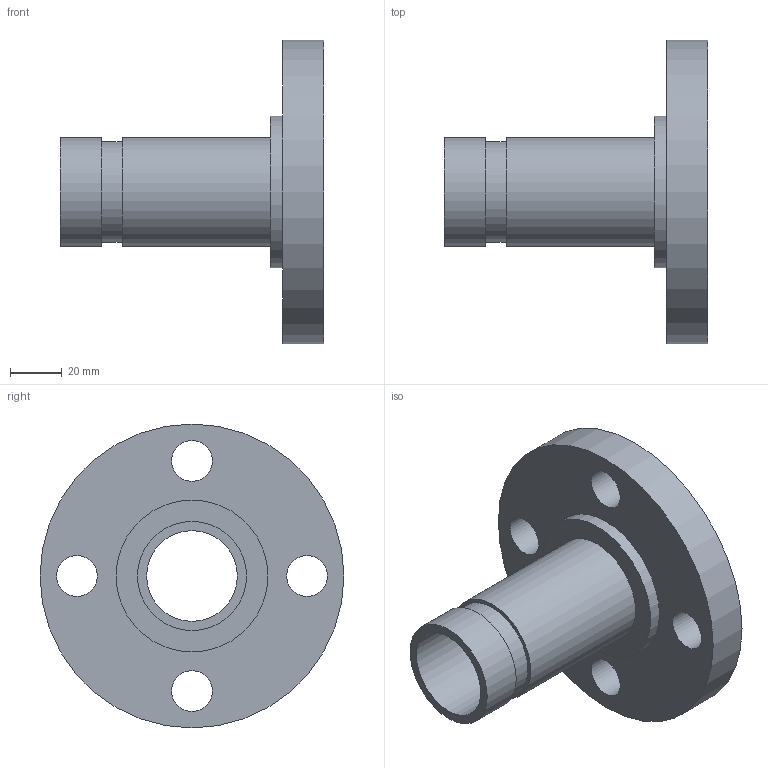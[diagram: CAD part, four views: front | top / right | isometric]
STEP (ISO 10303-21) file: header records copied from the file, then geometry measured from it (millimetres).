
FILE_DESCRIPTION(/* description */ ('VIC FLANGE ADAPTER No 45F','CAx-IF Rec.Pracs.---Representation and Presentation of Product Manufacturing Information (PMI)---4.0---2014-10-13'),/* implementation_level */ '2;1');
FILE_NAME(/* name */ 'C:\Users\kkamble\AppData\Roaming\Autodesk\ApplicationPlugins\Back Up\Victaulic_IPS_Flanged Adapter Nipple_CL 150 FF_No 45F (OGSxFLG)\Victaulic_IPS_Flanged Adapter Nipple_CL 150 FF_No 45F (OGSxFLG)_1.25 (32).stp',/* time_stamp */ '2020-07-26T22:22:43+06:00',/* author */ ('CONSTRUCTION PIPING SERVICES'),/* organization */ ('Victaulic'),/* preprocessor_version */ 'ST-DEVELOPER v17.2',/* originating_system */ 'Autodesk Inventor 2019',/* authorisation */ '');
FILE_SCHEMA (('AP242_MANAGED_MODEL_BASED_3D_ENGINEERING_MIM_LF { 1 0 10303 442 1 1 4 }'));
Length unit declared in the file: inch
Products named in the file (1): 045F-01.25
Bounding box: 101.6 x 117.35 x 117.35 mm (x, y, z)
Volume: 184584.7 mm3; surface area: 50200.7 mm2
Topology: 1 solids, 1 shells, 16 faces, 42 edges, 32 vertices
Faces by surface type: cylinder 10, plane 6
Full cylindrical faces by diameter (mm): 15.748 x4, 35.052 x1, 38.989 x1, 42.164 x2, 58.674 x1, 117.348 x1
Entity records: 622 total; most frequent: DIRECTION 108, CARTESIAN_POINT 91, ORIENTED_EDGE 84, AXIS2_PLACEMENT_3D 49, EDGE_CURVE 42, CIRCLE 32, VERTEX_POINT 32, EDGE_LOOP 30
